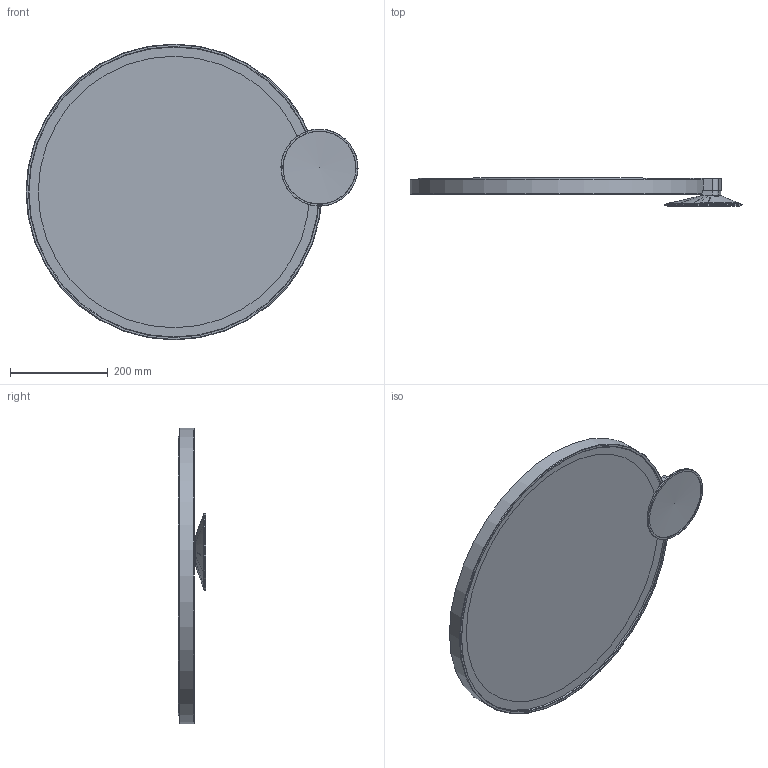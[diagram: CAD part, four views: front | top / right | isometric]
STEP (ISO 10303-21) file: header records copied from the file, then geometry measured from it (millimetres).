
FILE_DESCRIPTION(/* description */ ('Unknown'),/* implementation_level */ '2;1');
FILE_NAME(/* name */ 'Movi LUX',/* time_stamp */ '2026-04-08T14:11:09+02:00',/* author */ ('Mariusz Kirko'),/* organization */ ('Kraft'),/* preprocessor_version */ 'ST-DEVELOPER v19.4',/* originating_system */ 'Solid Edge',/* authorisation */ 'Unknown');
FILE_SCHEMA (('AUTOMOTIVE_DESIGN {1 0 10303 214 3 1 1}'));
Length unit declared in the file: millimetre
Products named in the file (12): Movi LUX plus zawieszki; Rama du瘸; Lustro; Z這瞠nie Ma貫 lusterko; Lusterko fi 15; Stela¿ ma³y; Ramka lusterka fi 15; Zakrywka; Ramka HIPS lux; Piaskowanie; Pierœcieñ do lusterka; 350x21
Assembly tree (12 placements, depth 3):
  Movi LUX plus zawieszki
    Rama du瘸
    Lustro
    Z這瞠nie Ma貫 lusterko
      Lusterko fi 15
      Stela¿ ma³y
      Ramka lusterka fi 15
    Zakrywka
    Ramka HIPS lux
    Piaskowanie
    Pierœcieñ do lusterka
    350x21  x2
Bounding box: 679.93 x 57.01 x 606 mm (x, y, z)
Volume: 2467488.4 mm3; surface area: 1293102.3 mm2
Topology: 10 solids, 11 shells, 325 faces, 892 edges, 588 vertices
Faces by surface type: plane 184, cylinder 118, bspline 11, sphere 6, torus 5, cone 1
Full cylindrical faces by diameter (mm): 4 x4, 148 x1, 150 x2, 158 x1, 500 x1, 545 x2, 546 x1, 550 x1, 556 x2, 594 x1, 600 x3, 606 x1
Entity records: 10101 total; most frequent: CARTESIAN_POINT 3358, DIRECTION 1350, ORIENTED_EDGE 1308, EDGE_CURVE 654, AXIS2_PLACEMENT_3D 493, VERTEX_POINT 452, LINE 364, VECTOR 364
